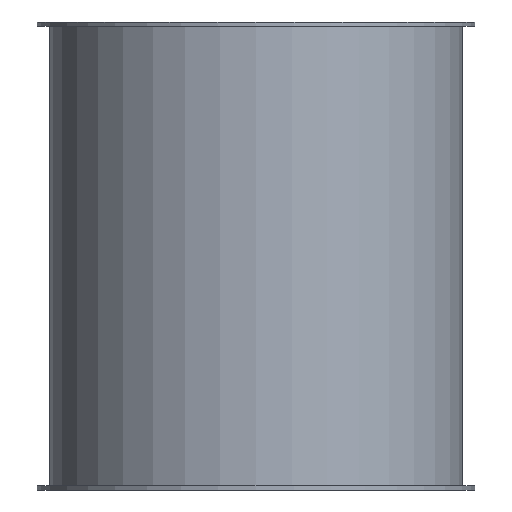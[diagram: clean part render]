
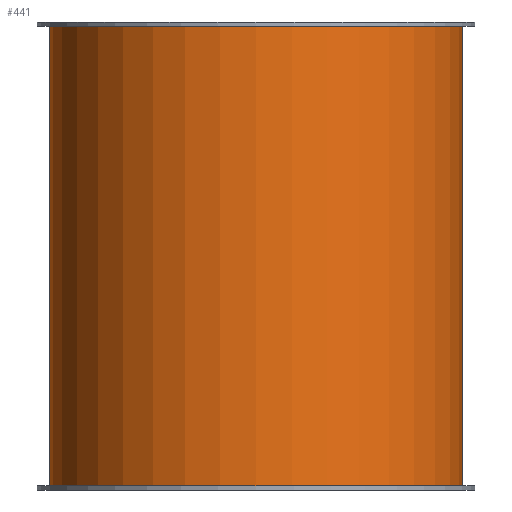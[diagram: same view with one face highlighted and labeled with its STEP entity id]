
A CAD part, front view. The second image highlights one B-rep face of the part: STEP entity #441.
In plain terms, the highlighted cylindrical face has radius 101.5 mm (diameter 203 mm), a full revolution.
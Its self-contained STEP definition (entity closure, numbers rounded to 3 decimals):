
#152=CARTESIAN_POINT('',(101.5,0.,228.0));
#153=VERTEX_POINT('',#152);
#154=CARTESIAN_POINT('',(0.0,0.0,228.0));
#155=DIRECTION('',(0.0,0.0,-1.0));
#156=DIRECTION('',(-1.0,0.0,0.0));
#157=AXIS2_PLACEMENT_3D('',#154,#155,#156);
#158=CIRCLE('',#157,101.5);
#159=EDGE_CURVE('',#153,#153,#158,.T.);
#200=CARTESIAN_POINT('',(-101.5,0.,2.0));
#201=VERTEX_POINT('',#200);
#202=CARTESIAN_POINT('',(0.0,0.0,2.0));
#203=DIRECTION('',(0.0,0.0,1.0));
#204=DIRECTION('',(-1.0,0.0,0.0));
#205=AXIS2_PLACEMENT_3D('',#202,#203,#204);
#206=CIRCLE('',#205,101.5);
#207=EDGE_CURVE('',#201,#201,#206,.T.);
#341=CARTESIAN_POINT('',(-76.5,66.708,115.0));
#342=VERTEX_POINT('',#341);
#343=CARTESIAN_POINT('',(-76.5,66.708,115.0));
#344=CARTESIAN_POINT('',(-76.5,66.708,109.857));
#345=CARTESIAN_POINT('',(-75.976,67.321,104.699));
#346=CARTESIAN_POINT('',(-73.923,69.569,94.657));
#347=CARTESIAN_POINT('',(-72.395,71.195,89.77));
#348=CARTESIAN_POINT('',(-68.461,74.985,80.493));
#349=CARTESIAN_POINT('',(-66.052,77.149,76.095));
#350=CARTESIAN_POINT('',(-60.53,81.553,67.962));
#351=CARTESIAN_POINT('',(-57.416,83.792,64.228));
#352=CARTESIAN_POINT('',(-50.844,87.931,57.656));
#353=CARTESIAN_POINT('',(-47.151,89.996,54.558));
#354=CARTESIAN_POINT('',(-39.021,93.807,49.017));
#355=CARTESIAN_POINT('',(-34.584,95.553,46.574));
#356=CARTESIAN_POINT('',(-25.206,98.443,42.592));
#357=CARTESIAN_POINT('',(-20.255,99.589,41.051));
#358=CARTESIAN_POINT('',(-10.168,101.118,39.004));
#359=CARTESIAN_POINT('',(-5.031,101.5,38.5));
#360=CARTESIAN_POINT('',(5.031,101.5,38.5));
#361=CARTESIAN_POINT('',(10.168,101.118,39.004));
#362=CARTESIAN_POINT('',(20.255,99.589,41.051));
#363=CARTESIAN_POINT('',(25.206,98.443,42.592));
#364=CARTESIAN_POINT('',(34.584,95.553,46.574));
#365=CARTESIAN_POINT('',(39.021,93.807,49.017));
#366=CARTESIAN_POINT('',(47.151,89.996,54.558));
#367=CARTESIAN_POINT('',(50.844,87.931,57.656));
#368=CARTESIAN_POINT('',(57.416,83.792,64.228));
#369=CARTESIAN_POINT('',(60.53,81.553,67.962));
#370=CARTESIAN_POINT('',(66.052,77.149,76.095));
#371=CARTESIAN_POINT('',(68.461,74.985,80.493));
#372=CARTESIAN_POINT('',(72.395,71.195,89.77));
#373=CARTESIAN_POINT('',(73.923,69.569,94.657));
#374=CARTESIAN_POINT('',(75.976,67.321,104.699));
#375=CARTESIAN_POINT('',(76.5,66.708,109.857));
#376=CARTESIAN_POINT('',(76.5,66.708,120.143));
#377=CARTESIAN_POINT('',(75.976,67.321,125.301));
#378=CARTESIAN_POINT('',(73.923,69.569,135.343));
#379=CARTESIAN_POINT('',(72.395,71.195,140.23));
#380=CARTESIAN_POINT('',(68.461,74.985,149.507));
#381=CARTESIAN_POINT('',(66.052,77.149,153.905));
#382=CARTESIAN_POINT('',(60.53,81.553,162.038));
#383=CARTESIAN_POINT('',(57.416,83.792,165.772));
#384=CARTESIAN_POINT('',(50.844,87.931,172.344));
#385=CARTESIAN_POINT('',(47.151,89.996,175.442));
#386=CARTESIAN_POINT('',(39.021,93.807,180.983));
#387=CARTESIAN_POINT('',(34.584,95.553,183.426));
#388=CARTESIAN_POINT('',(25.206,98.443,187.408));
#389=CARTESIAN_POINT('',(20.255,99.589,188.949));
#390=CARTESIAN_POINT('',(10.168,101.118,190.996));
#391=CARTESIAN_POINT('',(5.031,101.5,191.5));
#392=CARTESIAN_POINT('',(-5.031,101.5,191.5));
#393=CARTESIAN_POINT('',(-10.168,101.118,190.996));
#394=CARTESIAN_POINT('',(-20.255,99.589,188.949));
#395=CARTESIAN_POINT('',(-25.206,98.443,187.408));
#396=CARTESIAN_POINT('',(-34.584,95.553,183.426));
#397=CARTESIAN_POINT('',(-39.021,93.807,180.983));
#398=CARTESIAN_POINT('',(-47.151,89.996,175.442));
#399=CARTESIAN_POINT('',(-50.844,87.931,172.344));
#400=CARTESIAN_POINT('',(-57.416,83.792,165.772));
#401=CARTESIAN_POINT('',(-60.53,81.553,162.038));
#402=CARTESIAN_POINT('',(-66.052,77.149,153.905));
#403=CARTESIAN_POINT('',(-68.461,74.985,149.507));
#404=CARTESIAN_POINT('',(-72.395,71.195,140.23));
#405=CARTESIAN_POINT('',(-73.923,69.569,135.343));
#406=CARTESIAN_POINT('',(-75.976,67.321,125.301));
#407=CARTESIAN_POINT('',(-76.5,66.708,120.143));
#408=CARTESIAN_POINT('',(-76.5,66.708,115.));
#409=B_SPLINE_CURVE_WITH_KNOTS('',3,(#343,#344,#345,#346,#347,#348,#349,#350,#351,#352,#353,#354,#355,#356,#357,#358,#359,#360,#361,#362,#363,#364,#365,#366,#367,#368,#369,#370,#371,#372,#373,#374,#375,#376,#377,#378,#379,#380,#381,#382,#383,#384,#385,#386,#387,#388,#389,#390,#391,#392,#393,#394,#395,#396,#397,#398,#399,#400,#401,#402,#403,#404,#405,#406,#407,#408),.UNSPECIFIED.,.T.,.U.,(4,2,2,2,2,2,2,2,2,2,2,2,2,2,2,2,2,2,2,2,2,2,2,2,2,2,2,2,2,2,2,2,4),(0.0,1.543,3.086,4.629,6.171,7.681,9.19,10.7,12.209,13.719,15.228,16.738,18.247,19.79,21.333,22.875,24.418,25.961,27.504,29.047,30.59,32.099,33.609,35.118,36.628,38.137,39.646,41.156,42.665,44.208,45.751,47.294,48.837),.UNSPECIFIED.);
#410=EDGE_CURVE('',#342,#342,#409,.T.);
#427=CARTESIAN_POINT('',(0.0,0.0,0.0));
#428=DIRECTION('',(0.0,0.0,1.0));
#429=DIRECTION('',(-1.0,0.0,0.0));
#430=AXIS2_PLACEMENT_3D('',#427,#428,#429);
#431=CYLINDRICAL_SURFACE('',#430,101.5);
#432=ORIENTED_EDGE('',*,*,#159,.T.);
#433=EDGE_LOOP('',(#432));
#434=FACE_OUTER_BOUND('',#433,.T.);
#435=ORIENTED_EDGE('',*,*,#207,.T.);
#436=EDGE_LOOP('',(#435));
#437=FACE_BOUND('',#436,.T.);
#438=ORIENTED_EDGE('',*,*,#410,.T.);
#439=EDGE_LOOP('',(#438));
#440=FACE_BOUND('',#439,.T.);
#441=ADVANCED_FACE('',(#434,#437,#440),#431,.T.);
